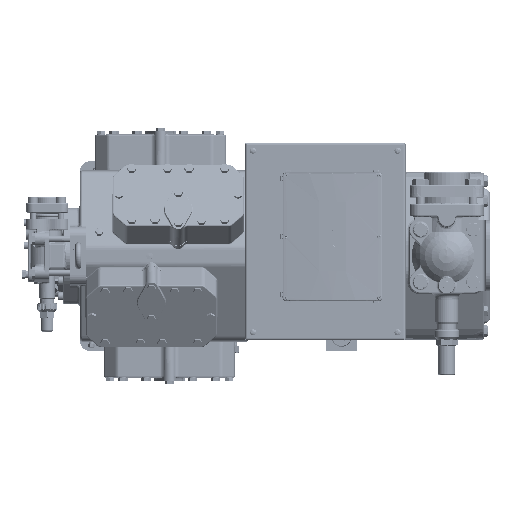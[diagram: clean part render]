
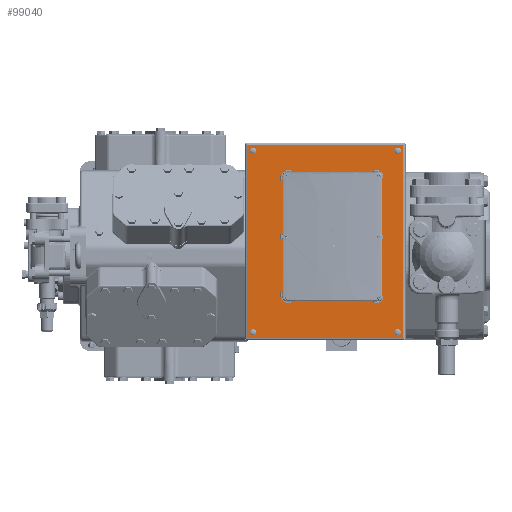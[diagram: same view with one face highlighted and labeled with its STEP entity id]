
A CAD part, top view. The second image highlights one B-rep face of the part: STEP entity #99040.
In plain terms, the highlighted planar face has unit normal (0, 0, 1).
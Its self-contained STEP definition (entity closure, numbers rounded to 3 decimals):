
#70916=LINE('',#381042,#77009);
#70917=LINE('',#381045,#77010);
#70918=LINE('',#381047,#77011);
#70919=LINE('',#381049,#77012);
#77009=VECTOR('',#238223,1.);
#77010=VECTOR('',#238224,1.);
#77011=VECTOR('',#238225,1.);
#77012=VECTOR('',#238226,1.);
#90535=PLANE('',#210669);
#99040=ADVANCED_FACE('',(#104689,#104690,#104691,#104692,#104693,#104694,
#104695,#104696,#104697,#104698,#104699),#90535,.T.);
#104689=FACE_BOUND('',#113129,.T.);
#104690=FACE_BOUND('',#113130,.T.);
#104691=FACE_BOUND('',#113131,.T.);
#104692=FACE_BOUND('',#113132,.T.);
#104693=FACE_BOUND('',#113133,.T.);
#104694=FACE_BOUND('',#113134,.T.);
#104695=FACE_BOUND('',#113135,.T.);
#104696=FACE_BOUND('',#113136,.T.);
#104697=FACE_BOUND('',#113137,.T.);
#104698=FACE_BOUND('',#113138,.T.);
#104699=FACE_BOUND('',#113139,.T.);
#113129=EDGE_LOOP('',(#148206));
#113130=EDGE_LOOP('',(#148207));
#113131=EDGE_LOOP('',(#148208));
#113132=EDGE_LOOP('',(#148209));
#113133=EDGE_LOOP('',(#148210));
#113134=EDGE_LOOP('',(#148211));
#113135=EDGE_LOOP('',(#148212));
#113136=EDGE_LOOP('',(#148213));
#113137=EDGE_LOOP('',(#148214));
#113138=EDGE_LOOP('',(#148215));
#113139=EDGE_LOOP('',(#148216,#148217,#148218,#148219));
#148206=ORIENTED_EDGE('',*,*,#190406,.F.);
#148207=ORIENTED_EDGE('',*,*,#190407,.F.);
#148208=ORIENTED_EDGE('',*,*,#190408,.F.);
#148209=ORIENTED_EDGE('',*,*,#190409,.F.);
#148210=ORIENTED_EDGE('',*,*,#190410,.F.);
#148211=ORIENTED_EDGE('',*,*,#190411,.F.);
#148212=ORIENTED_EDGE('',*,*,#190412,.T.);
#148213=ORIENTED_EDGE('',*,*,#190413,.T.);
#148214=ORIENTED_EDGE('',*,*,#190414,.T.);
#148215=ORIENTED_EDGE('',*,*,#190415,.T.);
#148216=ORIENTED_EDGE('',*,*,#190416,.F.);
#148217=ORIENTED_EDGE('',*,*,#190417,.F.);
#148218=ORIENTED_EDGE('',*,*,#190418,.F.);
#148219=ORIENTED_EDGE('',*,*,#190419,.F.);
#170183=VERTEX_POINT('',#381023);
#170184=VERTEX_POINT('',#381025);
#170185=VERTEX_POINT('',#381027);
#170186=VERTEX_POINT('',#381029);
#170187=VERTEX_POINT('',#381031);
#170188=VERTEX_POINT('',#381033);
#170189=VERTEX_POINT('',#381035);
#170190=VERTEX_POINT('',#381037);
#170191=VERTEX_POINT('',#381039);
#170192=VERTEX_POINT('',#381041);
#170193=VERTEX_POINT('',#381043);
#170194=VERTEX_POINT('',#381044);
#170195=VERTEX_POINT('',#381046);
#170196=VERTEX_POINT('',#381048);
#190406=EDGE_CURVE('',#170183,#170183,#199866,.T.);
#190407=EDGE_CURVE('',#170184,#170184,#199867,.T.);
#190408=EDGE_CURVE('',#170185,#170185,#199868,.T.);
#190409=EDGE_CURVE('',#170186,#170186,#199869,.T.);
#190410=EDGE_CURVE('',#170187,#170187,#199870,.T.);
#190411=EDGE_CURVE('',#170188,#170188,#199871,.T.);
#190412=EDGE_CURVE('',#170189,#170189,#199872,.T.);
#190413=EDGE_CURVE('',#170190,#170190,#199873,.T.);
#190414=EDGE_CURVE('',#170191,#170191,#199874,.T.);
#190415=EDGE_CURVE('',#170192,#170192,#199875,.T.);
#190416=EDGE_CURVE('',#170193,#170194,#70916,.T.);
#190417=EDGE_CURVE('',#170195,#170193,#70917,.T.);
#190418=EDGE_CURVE('',#170196,#170195,#70918,.T.);
#190419=EDGE_CURVE('',#170194,#170196,#70919,.T.);
#199866=CIRCLE('',#210659,2.5);
#199867=CIRCLE('',#210660,2.5);
#199868=CIRCLE('',#210661,2.5);
#199869=CIRCLE('',#210662,2.5);
#199870=CIRCLE('',#210663,2.5);
#199871=CIRCLE('',#210664,2.5);
#199872=CIRCLE('',#210665,3.5);
#199873=CIRCLE('',#210666,3.5);
#199874=CIRCLE('',#210667,3.5);
#199875=CIRCLE('',#210668,3.5);
#210659=AXIS2_PLACEMENT_3D('',#381022,#238203,#238204);
#210660=AXIS2_PLACEMENT_3D('',#381024,#238205,#238206);
#210661=AXIS2_PLACEMENT_3D('',#381026,#238207,#238208);
#210662=AXIS2_PLACEMENT_3D('',#381028,#238209,#238210);
#210663=AXIS2_PLACEMENT_3D('',#381030,#238211,#238212);
#210664=AXIS2_PLACEMENT_3D('',#381032,#238213,#238214);
#210665=AXIS2_PLACEMENT_3D('',#381034,#238215,#238216);
#210666=AXIS2_PLACEMENT_3D('',#381036,#238217,#238218);
#210667=AXIS2_PLACEMENT_3D('',#381038,#238219,#238220);
#210668=AXIS2_PLACEMENT_3D('',#381040,#238221,#238222);
#210669=AXIS2_PLACEMENT_3D('',#381050,#238227,#238228);
#238203=DIRECTION('',(0.,0.,1.));
#238204=DIRECTION('',(0.,1.,0.));
#238205=DIRECTION('',(0.,0.,1.));
#238206=DIRECTION('',(0.,1.,0.));
#238207=DIRECTION('',(0.,0.,1.));
#238208=DIRECTION('',(0.,1.,0.));
#238209=DIRECTION('',(0.,0.,1.));
#238210=DIRECTION('',(0.,1.,0.));
#238211=DIRECTION('',(0.,0.,1.));
#238212=DIRECTION('',(0.,1.,0.));
#238213=DIRECTION('',(0.,0.,1.));
#238214=DIRECTION('',(0.,1.,0.));
#238215=DIRECTION('',(0.,0.,-1.));
#238216=DIRECTION('',(0.,1.,0.));
#238217=DIRECTION('',(0.,0.,-1.));
#238218=DIRECTION('',(0.,1.,0.));
#238219=DIRECTION('',(0.,0.,-1.));
#238220=DIRECTION('',(0.,1.,0.));
#238221=DIRECTION('',(0.,0.,-1.));
#238222=DIRECTION('',(0.,1.,0.));
#238223=DIRECTION('',(0.,1.,0.));
#238224=DIRECTION('',(-1.,0.,0.));
#238225=DIRECTION('',(0.,-1.,0.));
#238226=DIRECTION('',(1.,0.,0.));
#238227=DIRECTION('',(0.,0.,1.));
#238228=DIRECTION('',(0.,1.,0.));
#381022=CARTESIAN_POINT('',(269.926,-25.661,353.667));
#381023=CARTESIAN_POINT('',(269.926,-23.161,353.667));
#381024=CARTESIAN_POINT('',(92.926,-25.661,353.667));
#381025=CARTESIAN_POINT('',(92.926,-23.161,353.667));
#381026=CARTESIAN_POINT('',(269.926,90.339,353.667));
#381027=CARTESIAN_POINT('',(269.926,92.839,353.667));
#381028=CARTESIAN_POINT('',(92.926,90.339,353.667));
#381029=CARTESIAN_POINT('',(92.926,92.839,353.667));
#381030=CARTESIAN_POINT('',(269.926,206.339,353.667));
#381031=CARTESIAN_POINT('',(269.926,208.839,353.667));
#381032=CARTESIAN_POINT('',(92.926,206.339,353.667));
#381033=CARTESIAN_POINT('',(92.926,208.839,353.667));
#381034=CARTESIAN_POINT('',(304.926,-90.661,353.667));
#381035=CARTESIAN_POINT('',(304.926,-87.161,353.667));
#381036=CARTESIAN_POINT('',(30.926,-90.661,353.667));
#381037=CARTESIAN_POINT('',(30.926,-87.161,353.667));
#381038=CARTESIAN_POINT('',(304.926,253.339,353.667));
#381039=CARTESIAN_POINT('',(304.926,256.839,353.667));
#381040=CARTESIAN_POINT('',(30.926,253.339,353.667));
#381041=CARTESIAN_POINT('',(30.926,256.839,353.667));
#381042=CARTESIAN_POINT('',(19.926,268.339,353.667));
#381043=CARTESIAN_POINT('',(19.926,-101.661,353.667));
#381044=CARTESIAN_POINT('',(19.926,264.339,353.667));
#381045=CARTESIAN_POINT('',(15.926,-101.661,353.667));
#381046=CARTESIAN_POINT('',(315.926,-101.661,353.667));
#381047=CARTESIAN_POINT('',(315.926,-105.661,353.667));
#381048=CARTESIAN_POINT('',(315.926,264.339,353.667));
#381049=CARTESIAN_POINT('',(167.926,264.339,353.667));
#381050=CARTESIAN_POINT('',(167.926,81.339,353.667));
